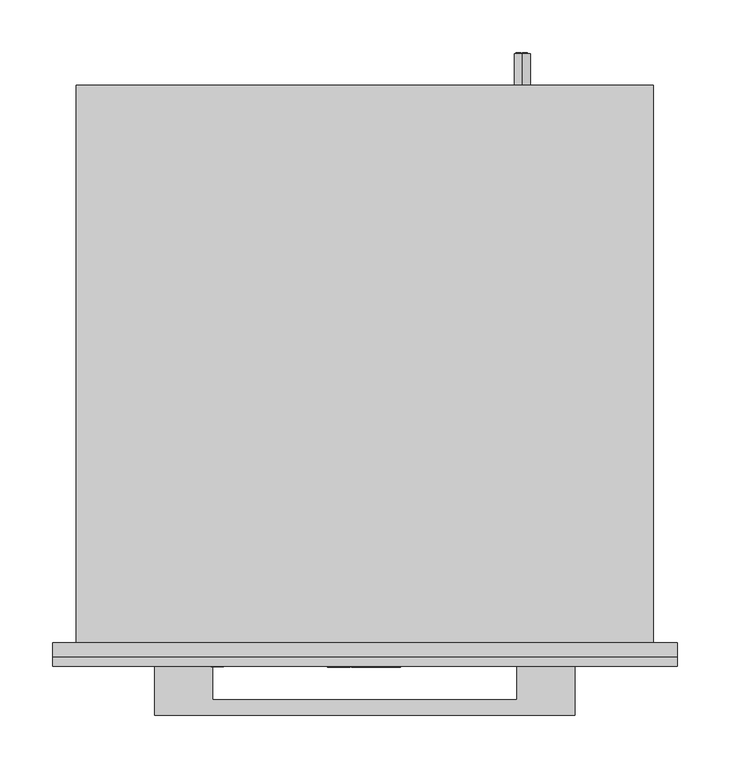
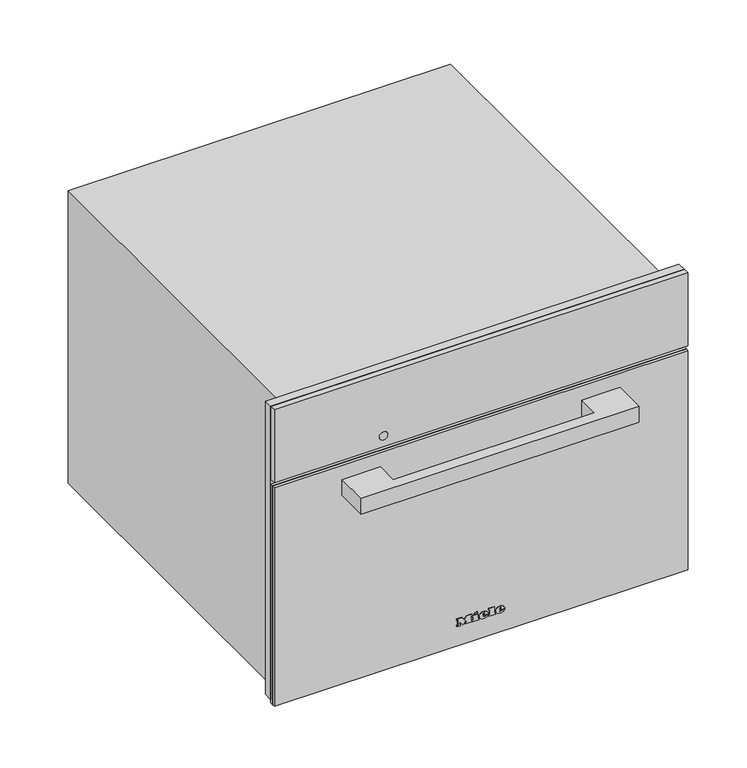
"""IFC4 building model written with IfcOpenShell, lengths in millimetres: proxy geometry, 11134600_I_DGM7840_OBSW : 23784024_I_11134600_DGM7840_OBSW."""

import ifcopenshell
import ifcopenshell.guid

model = None  # the IFC model being written
_history = None  # IfcOwnerHistory: only IFC2X3 demands one
_inside = {}  # id of a spatial element -> (the spatial element, [elements in it])
_under = {}  # id of a project, library or spatial element -> (it, [spatial elements below it])
_declared = {}  # id of a project -> (the project, [libraries it declares])
_typed = {}  # id of a type object -> (the type object, [elements of that type])
_made_of = {}  # id of a material, layer set ... -> (it, [elements and type objects made of it])


def new_model(schema):
    """Start an empty IFC model of exactly this schema.

    Asked for "IFC4X3", IfcOpenShell would pick the latest addendum, in which some entities
    have other attributes; the version numbers below select the first issue.
    IFC2X3 requires an IfcOwnerHistory on every rooted entity: one is made here for all.
    """
    global model, _history
    if schema == "IFC4X3":
        model = ifcopenshell.file(schema_version=(4, 3, 0, 0))
    else:
        model = ifcopenshell.file(schema=schema)
    _inside.clear()
    _under.clear()
    _declared.clear()
    _typed.clear()
    _made_of.clear()
    _history = None
    if model.schema == "IFC2X3":
        org = make("IfcOrganization", Name="unknown")
        user = make(
            "IfcPersonAndOrganization",
            ThePerson=make("IfcPerson", FamilyName="unknown"),
            TheOrganization=org,
        )
        app = make(
            "IfcApplication",
            ApplicationDeveloper=org,
            Version="unknown",
            ApplicationFullName="unknown",
            ApplicationIdentifier="unknown",
        )
        _history = make(
            "IfcOwnerHistory",
            OwningUser=user,
            OwningApplication=app,
            ChangeAction="ADDED",
            CreationDate=0,
        )
    return model


def make(cls, **values):
    """One entity of the class cls with the attributes given. An attribute that is None is left unset."""
    return model.create_entity(
        cls, **{name: value for name, value in values.items() if value is not None}
    )


def rooted(cls, **values):
    """An entity with a GlobalId (a new one), such as an element, a storey or a relation."""
    return make(cls, GlobalId=ifcopenshell.guid.new(), OwnerHistory=_history, **values)


def si_unit(unit_type, name, prefix=None):
    """IfcSIUnit, for example si_unit("LENGTHUNIT", "METRE", prefix="MILLI")."""
    return make("IfcSIUnit", UnitType=unit_type, Prefix=prefix, Name=name)


def assignment(units):
    """IfcUnitAssignment: the units of a project."""
    return None if units is None else make("IfcUnitAssignment", Units=units)


def point(xyz):
    """IfcCartesianPoint."""
    return None if xyz is None else make("IfcCartesianPoint", Coordinates=xyz)


def direction(xyz):
    """IfcDirection."""
    return None if xyz is None else make("IfcDirection", DirectionRatios=xyz)


def frame(location, z_axis=None, x_axis=None):
    """IfcAxis2Placement3D, a coordinate frame: its origin and axes. An axis left out is left unset."""
    return make(
        "IfcAxis2Placement3D",
        Location=point(location),
        Axis=direction(z_axis),
        RefDirection=direction(x_axis),
    )


def frame_2d(location, x_axis=None):
    """IfcAxis2Placement2D, a coordinate frame in the plane: its origin and x axis."""
    return make(
        "IfcAxis2Placement2D", Location=point(location), RefDirection=direction(x_axis)
    )


def origin():
    """The frame at (0, 0, 0) with its axes left unset."""
    return frame((0.0, 0.0, 0.0))


def place(relative_to, where):
    """IfcLocalPlacement: puts the frame where relative to a parent placement (None: the world)."""
    return make(
        "IfcLocalPlacement", PlacementRelTo=relative_to, RelativePlacement=where
    )


def context(
    kind, dimensions, precision=None, world=None, true_north=None, identifier=None
):
    """IfcGeometricRepresentationContext, for example the 3D "Model" context."""
    return make(
        "IfcGeometricRepresentationContext",
        ContextIdentifier=identifier,
        ContextType=kind,
        CoordinateSpaceDimension=dimensions,
        Precision=precision,
        WorldCoordinateSystem=world,
        TrueNorth=true_north,
    )


def project(units=None, contexts=None):
    """IfcProject with its units and contexts."""
    return rooted(
        "IfcProject",
        Name="project",
        RepresentationContexts=contexts,
        UnitsInContext=assignment(units),
    )


def spatial(cls, under=None, at=None, **own):
    """A site, building, storey or space (cls), placed at a placement, below another one or the project."""
    s = rooted(cls, ObjectPlacement=at, **own)
    if under is not None:
        _under.setdefault(under.id(), (under, []))[1].append(s)
    return s


def polyline(points):
    """IfcPolyline through the points."""
    return make("IfcPolyline", Points=[point(p) for p in points])


def circle_curve(where, radius):
    """IfcCircle in the frame where."""
    return make("IfcCircle", Position=where, Radius=radius)


def ellipse_curve(where, semi_axis1, semi_axis2):
    """IfcEllipse in the frame where."""
    return make(
        "IfcEllipse", Position=where, SemiAxis1=semi_axis1, SemiAxis2=semi_axis2
    )


def trimmed(basis, trim1, trim2, sense, master):
    """IfcTrimmedCurve: the piece of a basis curve between two trims."""
    return make(
        "IfcTrimmedCurve",
        BasisCurve=basis,
        Trim1=trim1,
        Trim2=trim2,
        SenseAgreement=sense,
        MasterRepresentation=master,
    )


def segment(curve, same_sense, transition):
    """IfcCompositeCurveSegment."""
    return make(
        "IfcCompositeCurveSegment",
        Transition=transition,
        SameSense=same_sense,
        ParentCurve=curve,
    )


def composite_curve(segments, self_intersect=None):
    """IfcCompositeCurve: segments joined end to end."""
    return make("IfcCompositeCurve", Segments=segments, SelfIntersect=self_intersect)


def outline(outer, holes=None, kind="AREA"):
    """IfcArbitraryClosedProfileDef: a profile drawn as a closed curve; with holes, ...WithVoids."""
    if holes is None:
        return make("IfcArbitraryClosedProfileDef", ProfileType=kind, OuterCurve=outer)
    return make(
        "IfcArbitraryProfileDefWithVoids",
        ProfileType=kind,
        OuterCurve=outer,
        InnerCurves=holes,
    )


def extrude(swept, where, along, depth):
    """IfcExtrudedAreaSolid: the profile swept, set in the frame where, extruded along a direction by depth."""
    return make(
        "IfcExtrudedAreaSolid",
        SweptArea=swept,
        Position=where,
        ExtrudedDirection=direction(along),
        Depth=depth,
    )


def faces_of(points, faces, orient=None, outer=None):
    """IfcFace entities. A face is a list of loops; a loop is a list of indices into points, from 0.

    orient and outer hold one flag for each loop. By default every Orientation is true, the
    first loop of a face is its IfcFaceOuterBound and the others are IfcFaceBound.
    """
    made = []
    for i, loops in enumerate(faces):
        bounds = []
        for j, loop in enumerate(loops):
            is_outer = j == 0 if outer is None else outer[i][j]
            bounds.append(
                make(
                    "IfcFaceOuterBound" if is_outer else "IfcFaceBound",
                    Bound=make("IfcPolyLoop", Polygon=[points[k] for k in loop]),
                    Orientation=True if orient is None else orient[i][j],
                )
            )
        made.append(make("IfcFace", Bounds=bounds))
    return made


def faceted_brep(points, faces, orient=None, outer=None, voids=None):
    """IfcFacetedBrep: a solid bounded by flat faces; with voids (closed shells), ...WithVoids."""
    shared = [point(p) for p in points]
    hull = make("IfcClosedShell", CfsFaces=faces_of(shared, faces, orient, outer))
    if voids is None:
        return make("IfcFacetedBrep", Outer=hull)
    return make(
        "IfcFacetedBrepWithVoids",
        Outer=hull,
        Voids=[
            make(cls, CfsFaces=faces_of(shared, fs, o, b)) for cls, fs, o, b in voids
        ],
    )


def shape(context_of_items, identifier, shape_type, items):
    """IfcShapeRepresentation: the items that make up one representation, for example the "Body"."""
    return make(
        "IfcShapeRepresentation",
        ContextOfItems=context_of_items,
        RepresentationIdentifier=identifier,
        RepresentationType=shape_type,
        Items=items,
    )


def source(mapping_origin, context_of_items, identifier, shape_type, items):
    """IfcRepresentationMap: a shape defined once, which mapped items show again and again."""
    return make(
        "IfcRepresentationMap",
        MappingOrigin=mapping_origin,
        MappedRepresentation=shape(context_of_items, identifier, shape_type, items),
    )


def transform(
    local_origin,
    x_axis=None,
    y_axis=None,
    z_axis=None,
    scale=None,
    scale2=None,
    scale3=None,
    uniform=True,
):
    """IfcCartesianTransformationOperator3D, or its non-uniform kind. x_axis, y_axis, z_axis: its Axis1, 2, 3."""
    if uniform:
        return make(
            "IfcCartesianTransformationOperator3D",
            Axis1=direction(x_axis),
            Axis2=direction(y_axis),
            LocalOrigin=point(local_origin),
            Scale=scale,
            Axis3=direction(z_axis),
        )
    return make(
        "IfcCartesianTransformationOperator3DnonUniform",
        Axis1=direction(x_axis),
        Axis2=direction(y_axis),
        LocalOrigin=point(local_origin),
        Scale=scale,
        Axis3=direction(z_axis),
        Scale2=scale2,
        Scale3=scale3,
    )


def mapped(mapping_source, mapping_target):
    """IfcMappedItem: shows the shape of a source again, moved by a transform."""
    return make(
        "IfcMappedItem", MappingSource=mapping_source, MappingTarget=mapping_target
    )


def made_of(thing, what):
    """Note that an element or type object is made of a material, layer set ...; save() writes the relation."""
    if what is not None:
        _made_of.setdefault(what.id(), (what, []))[1].append(thing)
    return thing


def element(
    cls,
    number,
    at=None,
    inside=None,
    cuts=None,
    type_object=None,
    material=None,
    context=None,
    identifier="Body",
    shape_type=None,
    held_by="IfcProductDefinitionShape",
    body=None,
    shapes=None,
    **own,
):
    """One element of the class cls, such as IfcWall. Its Tag is "e" and its number.

    at: its placement. inside: the storey or other place that contains it. cuts: it is an
    opening in that element (IfcRelVoidsElement). A single representation is given by context,
    identifier, shape_type and body (its items); several are given by shapes. held_by: the class
    of the entity that holds the representations. save() writes the other relations.
    """
    e = rooted(cls, Tag="e%d" % number, ObjectPlacement=at, **own)
    if body is not None:
        shapes = [shape(context, identifier, shape_type, body)]
    if shapes is not None:
        e.Representation = make(held_by, Representations=shapes)
    if inside is not None:
        _inside.setdefault(inside.id(), (inside, []))[1].append(e)
    if cuts is not None:
        rooted(
            "IfcRelVoidsElement", RelatingBuildingElement=cuts, RelatedOpeningElement=e
        )
    if type_object is not None:
        _typed.setdefault(type_object.id(), (type_object, []))[1].append(e)
    return made_of(e, material)


def aggregate(whole, parts):
    """IfcRelAggregates: a whole, such as a stair, and the parts it consists of."""
    return rooted("IfcRelAggregates", RelatingObject=whole, RelatedObjects=parts)


def save(model, path):
    """Write the relations noted so far, then the file.

    IfcRelAggregates (storeys below a building ...), IfcRelContainedInSpatialStructure (elements
    in a storey), IfcRelDefinesByType, IfcRelAssociatesMaterial and IfcRelDeclares: one each for
    every whole, place, type object, material and project.
    """
    for whole, parts in _under.values():
        aggregate(whole, parts)
    for where, things in _inside.values():
        rooted(
            "IfcRelContainedInSpatialStructure",
            RelatedElements=things,
            RelatingStructure=where,
        )
    for kind, things in _typed.values():
        rooted("IfcRelDefinesByType", RelatedObjects=things, RelatingType=kind)
    for what, things in _made_of.values():
        rooted("IfcRelAssociatesMaterial", RelatedObjects=things, RelatingMaterial=what)
    for by, libraries in _declared.values():
        rooted("IfcRelDeclares", RelatingContext=by, RelatedDefinitions=libraries)
    model.write(path)


def plane_surface(at):
    """IfcPlane: the flat surface through the origin of the frame at, square to its z axis."""
    return make("IfcPlane", Position=at)


def cylinder_surface(at, radius):
    """IfcCylindricalSurface: all points at the distance radius from the z axis of the frame at."""
    return make("IfcCylindricalSurface", Position=at, Radius=radius)


def revolved_surface(curve, axis_point, axis_direction):
    """IfcSurfaceOfRevolution: the curve turned about the line through axis_point along axis_direction."""
    return make(
        "IfcSurfaceOfRevolution",
        SweptCurve=make("IfcArbitraryOpenProfileDef", ProfileType="CURVE", Curve=curve),
        AxisPosition=make("IfcAxis1Placement", Location=point(axis_point), Axis=direction(axis_direction)),
    )


def extruded_surface(curve, direction_of_extrusion, depth):
    """IfcSurfaceOfLinearExtrusion: the curve pushed along a direction by depth."""
    return make(
        "IfcSurfaceOfLinearExtrusion",
        SweptCurve=make("IfcArbitraryOpenProfileDef", ProfileType="CURVE", Curve=curve),
        ExtrudedDirection=direction(direction_of_extrusion),
        Depth=depth,
    )


def advanced_brep(points, edges, surfaces, faces):
    """IfcAdvancedBrep: a solid bounded by faces that lie on surfaces and meet in shared edges.

    An edge is (start, end): straight between two places in points (the first is 0);
    or (start, end, curve); or (start, end, curve, False) where it runs against its curve.
    A face is (place in surfaces, loops), or (place, loops, False) where it looks against
    its surface's normal. A loop lists edges by number (the first is 1), with a minus sign
    where the edge is run from its end to its start. The first loop is the outer one.
    """
    corners = [point(p) for p in points]
    vertices = [make("IfcVertexPoint", VertexGeometry=c) for c in corners]
    made = []
    for start, end, *more in edges:
        made.append(
            make(
                "IfcEdgeCurve",
                EdgeStart=vertices[start],
                EdgeEnd=vertices[end],
                EdgeGeometry=more[0] if more else make("IfcPolyline", Points=[corners[start], corners[end]]),
                SameSense=more[1] if len(more) > 1 else True,
            )
        )
    hull = []
    for where, loops, *sense in faces:
        bounds = []
        for j, loop in enumerate(loops):
            ring = [make("IfcOrientedEdge", EdgeElement=made[abs(k) - 1], Orientation=k > 0) for k in loop]
            bounds.append(
                make(
                    "IfcFaceOuterBound" if j == 0 else "IfcFaceBound",
                    Bound=make("IfcEdgeLoop", EdgeList=ring),
                    Orientation=True,
                )
            )
        hull.append(make("IfcAdvancedFace", Bounds=bounds, FaceSurface=surfaces[where], SameSense=sense[0] if sense else True))
    return make("IfcAdvancedBrep", Outer=make("IfcClosedShell", CfsFaces=hull))


def specialty_equipment_aa7fc179(model_context):
    return source(origin(), model_context, "Body", "SolidModel", [
        extrude(outline(polyline([(455.0, 297.5), (455.0, -297.5), (9.0, -297.5), (9.0, -272.5), (344.0, -272.5), (344.0, 272.5), (9.0, 272.5), (9.0, 297.5), (455.0, 297.5)])), frame((0.0, -13.0, 0.0), z_axis=(0.0, 1.0, 0.0), x_axis=(0.0, 0.0, 1.0)), (0.0, 0.0, 1.0), 13.0),
        advanced_brep(
        [(150.0, 561.0, 410.5), (150.0, 561.0, 395.5), (144.4098301, 561.0, 398.0), (148.5, 561.0, 398.0), (148.5, 561.0, 408.0), (147.4955303, 561.0, 408.0), (147.4955303, 561.0, 399.0), (144.0315043, 561.0, 399.0), (144.0315043, 561.0, 398.4582978), (155.0, 561.0, 398.0), (155.0, 561.0, 408.0), (150.0, 561.0, 408.0), (150.0, 561.0, 407.0), (154.0, 561.0, 407.0), (154.0, 561.0, 403.5), (151.0, 561.0, 403.5), (151.0, 561.0, 402.5), (154.0, 561.0, 402.5), (154.0, 561.0, 399.0), (150.0, 561.0, 399.0), (150.0, 561.0, 398.0), (150.0, 531.0, 395.5), (150.0, 531.0, 410.5), (155.0, 562.0, 408.0), (155.0, 562.0, 398.0), (150.0, 562.0, 398.0), (150.0, 562.0, 399.0), (154.0, 562.0, 399.0), (154.0, 562.0, 402.5), (151.0, 562.0, 402.5), (151.0, 562.0, 403.5), (154.0, 562.0, 403.5), (154.0, 562.0, 407.0), (150.0, 562.0, 407.0), (150.0, 562.0, 408.0), (148.5, 562.0, 398.0), (144.0315043, 562.0, 398.0), (144.0315043, 562.0, 399.0), (147.4955303, 562.0, 399.0), (147.4955303, 562.0, 408.0), (148.5, 562.0, 408.0), (144.0315043, 561.0, 398.0)],
        [
            (0, 1, circle_curve(frame((150.0, 561.0, 403.0), z_axis=(0.0, 1.0, 0.0), x_axis=(0.0, 0.0, 1.0)), 7.5)),
            (1, 2, circle_curve(frame((150.0, 561.0, 403.0), z_axis=(0.0, 1.0, 0.0), x_axis=(0.0, 0.0, 1.0)), 7.5)),
            (2, 3),
            (3, 4),
            (4, 5),
            (5, 6),
            (6, 7),
            (7, 8),
            (8, 0, circle_curve(frame((150.0, 561.0, 403.0), z_axis=(0.0, 1.0, 0.0), x_axis=(0.0, 0.0, 1.0)), 7.5)),
            (9, 10),
            (10, 11),
            (11, 12),
            (12, 13),
            (13, 14),
            (14, 15),
            (15, 16),
            (16, 17),
            (17, 18),
            (18, 19),
            (19, 20),
            (20, 9),
            (21, 22, circle_curve(frame((150.0, 531.0, 403.0), z_axis=(0.0, -1.0, 0.0), x_axis=(0.0, 0.0, 1.0)), 7.5)),
            (22, 21, circle_curve(frame((150.0, 531.0, 403.0), z_axis=(0.0, -1.0, 0.0), x_axis=(0.0, 0.0, 1.0)), 7.5)),
            (0, 22),
            (21, 1),
            (8, 2, circle_curve(frame((150.0, 561.0, 403.0), z_axis=(0.0, -1.0, 0.0), x_axis=(0.0, 0.0, 1.0)), 7.5)),
            (23, 24),
            (24, 25),
            (25, 26),
            (26, 27),
            (27, 28),
            (28, 29),
            (29, 30),
            (30, 31),
            (31, 32),
            (32, 33),
            (33, 34),
            (34, 23),
            (35, 36),
            (36, 37),
            (37, 38),
            (38, 39),
            (39, 40),
            (40, 35),
            (8, 41),
            (41, 2),
            (23, 10),
            (9, 24),
            (20, 25),
            (19, 26),
            (18, 27),
            (17, 28),
            (16, 29),
            (15, 30),
            (14, 31),
            (13, 32),
            (12, 33),
            (11, 34),
            (35, 3),
            (41, 36),
            (7, 37),
            (6, 38),
            (5, 39),
            (4, 40),
        ],
        [
            plane_surface(frame((150.0, 561.0, 410.5), z_axis=(0.0, 1.0, 0.0), x_axis=(1.0, 0.0, 0.0))),
            plane_surface(frame((150.0, 531.0, 410.5), z_axis=(0.0, -1.0, 0.0), x_axis=(-1.0, 0.0, 0.0))),
            cylinder_surface(frame((150.0, 561.0, 403.0), z_axis=(0.0, -1.0, 0.0), x_axis=(0.0, 0.0, 1.0)), 7.5),
            plane_surface(frame((155.0, 562.0, 408.0), z_axis=(0.0, 1.0, 0.0), x_axis=(0.0, 0.0, -1.0))),
            plane_surface(frame((155.0, 561.0, 408.0), z_axis=(0.0, -1.0, 0.0), x_axis=(0.0, 0.0, 1.0))),
            plane_surface(frame((155.0, 562.0, 408.0), z_axis=(1.0, 0.0, 0.0), x_axis=(0.0, -1.0, 0.0))),
            plane_surface(frame((155.0, 562.0, 398.0), z_axis=(0.0, 0.0, -1.0), x_axis=(0.0, -1.0, 0.0))),
            plane_surface(frame((150.0, 562.0, 398.0), z_axis=(-1.0, 0.0, 0.0), x_axis=(0.0, -1.0, 0.0))),
            plane_surface(frame((150.0, 562.0, 399.0), z_axis=(0.0, 0.0, 1.0), x_axis=(0.0, -1.0, 0.0))),
            plane_surface(frame((154.0, 562.0, 399.0), z_axis=(-1.0, 0.0, 0.0), x_axis=(0.0, -1.0, 0.0))),
            plane_surface(frame((154.0, 562.0, 402.5), z_axis=(0.0, 0.0, -1.0), x_axis=(0.0, -1.0, 0.0))),
            plane_surface(frame((151.0, 562.0, 402.5), z_axis=(-1.0, 0.0, 0.0), x_axis=(0.0, -1.0, 0.0))),
            plane_surface(frame((151.0, 562.0, 403.5), z_axis=(0.0, 0.0, 1.0), x_axis=(0.0, -1.0, 0.0))),
            plane_surface(frame((154.0, 562.0, 403.5), z_axis=(-1.0, 0.0, 0.0), x_axis=(0.0, -1.0, 0.0))),
            plane_surface(frame((154.0, 562.0, 407.0), z_axis=(0.0, 0.0, -1.0), x_axis=(0.0, -1.0, 0.0))),
            plane_surface(frame((150.0, 562.0, 407.0), z_axis=(-1.0, 0.0, 0.0), x_axis=(0.0, -1.0, 0.0))),
            plane_surface(frame((150.0, 562.0, 408.0), z_axis=(0.0, 0.0, 1.0), x_axis=(0.0, -1.0, 0.0))),
            plane_surface(frame((148.5, 562.0, 398.0), z_axis=(0.0, 0.0, -1.0), x_axis=(0.0, -1.0, 0.0))),
            plane_surface(frame((144.0315043, 562.0, 398.0), z_axis=(-1.0, 0.0, 0.0), x_axis=(0.0, -1.0, 0.0))),
            plane_surface(frame((144.0315043, 562.0, 399.0), z_axis=(0.0, 0.0, 1.0), x_axis=(0.0, -1.0, 0.0))),
            plane_surface(frame((147.4955303, 562.0, 399.0), z_axis=(-1.0, 0.0, 0.0), x_axis=(0.0, -1.0, 0.0))),
            plane_surface(frame((147.4955303, 562.0, 408.0), z_axis=(0.0, 0.0, 1.0), x_axis=(0.0, -1.0, 0.0))),
            plane_surface(frame((148.5, 562.0, 408.0), z_axis=(1.0, 0.0, 0.0), x_axis=(0.0, -1.0, 0.0))),
        ],
        [
            (0, [[1, 2, 3, 4, 5, 6, 7, 8, 9], [10, 11, 12, 13, 14, 15, 16, 17, 18, 19, 20, 21]]),
            (1, [[22, 23]]),
            (2, [[-1, 24, -22, 25]]),
            (2, [[-23, -24, -9, 26, -2, -25]]),
            (3, [[27, 28, 29, 30, 31, 32, 33, 34, 35, 36, 37, 38]]),
            (3, [[39, 40, 41, 42, 43, 44]]),
            (4, [[45, 46, -26]]),
            (5, [[-27, 47, -10, 48]]),
            (6, [[-28, -48, -21, 49]]),
            (7, [[-29, -49, -20, 50]]),
            (8, [[-30, -50, -19, 51]]),
            (9, [[-31, -51, -18, 52]]),
            (10, [[-32, -52, -17, 53]]),
            (11, [[-33, -53, -16, 54]]),
            (12, [[-34, -54, -15, 55]]),
            (13, [[-35, -55, -14, 56]]),
            (14, [[-36, -56, -13, 57]]),
            (15, [[-37, -57, -12, 58]]),
            (16, [[-38, -58, -11, -47]]),
            (17, [[-39, 59, -3, -46, 60]]),
            (18, [[-40, -60, -45, -8, 61]]),
            (19, [[-41, -61, -7, 62]]),
            (20, [[-42, -62, -6, 63]]),
            (21, [[-43, -63, -5, 64]]),
            (22, [[-44, -64, -4, -59]]),
        ],
    ),
        faceted_brep([(275.0, 531.0, 445.0), (275.0, 531.0, 0.0), (-275.0, 531.0, 0.0), (-275.0, 531.0, 445.0), (275.0, 0.0, 445.0), (-275.0, 0.0, 445.0), (-275.0, 0.0, 0.0), (275.0, 0.0, 0.0), (-272.5, 0.0, 344.0), (272.5, 0.0, 344.0), (272.5, 0.0, 8.0), (-272.5, 0.0, 8.0), (272.5, 12.0, 344.0), (-272.5, 12.0, 344.0), (-272.5, 12.0, 8.0), (272.5, 12.0, 8.0), (161.0, 12.0, 286.0), (161.0, 12.0, 58.0), (-220.0, 12.0, 58.0), (-220.0, 12.0, 286.0), (161.0, 419.0, 286.0), (-220.0, 419.0, 286.0), (-220.0, 419.0, 58.0), (161.0, 419.0, 58.0)], [[[0, 1, 2, 3]], [[4, 5, 6, 7], [8, 9, 10, 11]], [[0, 3, 5, 4]], [[3, 2, 6, 5]], [[2, 1, 7, 6]], [[1, 0, 4, 7]], [[12, 13, 14, 15], [16, 17, 18, 19]], [[13, 12, 9, 8]], [[14, 13, 8, 11]], [[15, 14, 11, 10]], [[12, 15, 10, 9]], [[20, 21, 22, 23]], [[20, 23, 17, 16]], [[23, 22, 18, 17]], [[22, 21, 19, 18]], [[21, 20, 16, 19]]]),
        advanced_brep(
        [(26.2998, -23.0, 36.7018), (26.2998, -23.0, 37.8532), (33.9264, -23.0, 37.8532), (20.6568, -23.0, 37.8532), (23.7918, -23.0, 34.0), (33.7326, -23.0, 36.7018), (30.2898, -23.0, 36.7018), (27.5766, -23.0, 35.425), (26.2998, -23.0, 39.3124), (26.2998, -23.0, 40.555), (28.2492, -23.0, 40.555), (28.2492, -23.0, 39.3124), (26.2998, -22.0, 36.7018), (27.5766, -22.0, 35.425), (30.2898, -22.0, 36.7018), (33.7326, -22.0, 36.7018), (23.7918, -22.0, 34.0), (20.6568, -22.0, 37.8532), (33.9264, -22.0, 37.8532), (26.2998, -22.0, 37.8532), (26.2998, -22.0, 39.3124), (28.2492, -22.0, 39.3124), (28.2492, -22.0, 40.555), (26.2998, -22.0, 40.555)],
        [
            (0, 1),
            (1, 2),
            (2, 3, ellipse_curve(frame((27.2916, -23.0, 37.8532), z_axis=(0.0, -1.0, 0.0), x_axis=(-1.0, 0.0, 0.0)), 6.6348, 5.4834)),
            (3, 4, circle_curve(frame((25.0686622, -23.0, 38.2408), z_axis=(0.0, -1.0, 0.0), x_axis=(0.0, 0.0, -1.0)), 4.4288556)),
            (4, 5, circle_curve(frame((27.1587808, -23.0, 41.2504), z_axis=(0.0, -1.0, 0.0), x_axis=(0.0, 0.0, -1.0)), 7.9940516)),
            (5, 6),
            (6, 7, circle_curve(frame((28.1338588, -23.0, 37.762), z_axis=(0.0, 1.0, 0.0), x_axis=(0.0, 0.0, -1.0)), 2.4025208)),
            (7, 0, circle_curve(frame((27.5766, -23.0, 36.7018), z_axis=(0.0, 1.0, 0.0), x_axis=(0.0, 0.0, -1.0)), 1.2768)),
            (8, 9),
            (9, 10, circle_curve(frame((27.2745, -23.0, 40.555), z_axis=(0.0, 1.0, 0.0), x_axis=(0.0, 0.0, -1.0)), 0.9747)),
            (10, 11),
            (11, 8),
            (12, 13, circle_curve(frame((27.5766, -22.0, 36.7018), z_axis=(0.0, -1.0, 0.0), x_axis=(0.0, 0.0, -1.0)), 1.2768)),
            (13, 14, circle_curve(frame((28.1338588, -22.0, 37.762), z_axis=(0.0, -1.0, 0.0), x_axis=(0.0, 0.0, -1.0)), 2.4025208)),
            (14, 15),
            (15, 16, circle_curve(frame((27.1587808, -22.0, 41.2504), z_axis=(0.0, 1.0, 0.0), x_axis=(0.0, 0.0, -1.0)), 7.9940516)),
            (16, 17, circle_curve(frame((25.0686622, -22.0, 38.2408), z_axis=(0.0, 1.0, 0.0), x_axis=(0.0, 0.0, -1.0)), 4.4288556)),
            (17, 18, ellipse_curve(frame((27.2916, -22.0, 37.8532), z_axis=(0.0, 1.0, 0.0), x_axis=(-1.0, 0.0, 0.0)), 6.6348, 5.4834)),
            (18, 19),
            (19, 12),
            (20, 21),
            (21, 22),
            (22, 23, circle_curve(frame((27.2745, -22.0, 40.555), z_axis=(0.0, -1.0, 0.0), x_axis=(0.0, 0.0, -1.0)), 0.9747)),
            (23, 20),
            (0, 12),
            (19, 1),
            (18, 2),
            (5, 15),
            (14, 6),
            (17, 3),
            (13, 7),
            (16, 4),
            (8, 20),
            (23, 9),
            (22, 10),
            (21, 11),
        ],
        [
            plane_surface(frame((26.2998, -23.0, 37.8532), z_axis=(0.0, -1.0, 0.0), x_axis=(0.0, 0.0, 1.0))),
            plane_surface(frame((26.2998, -22.0, 37.8532), z_axis=(0.0, 1.0, 0.0), x_axis=(0.0, 0.0, -1.0))),
            plane_surface(frame((26.2998, -23.0, 36.7018), z_axis=(1.0, 0.0, 0.0), x_axis=(0.0, 1.0, 0.0))),
            plane_surface(frame((26.2998, -23.0, 37.8532), z_axis=(0.0, 0.0, -1.0), x_axis=(0.0, 1.0, 0.0))),
            plane_surface(frame((33.7326, -23.0, 36.7018), z_axis=(0.0, 0.0, 1.0), x_axis=(0.0, 1.0, 0.0))),
            extruded_surface(trimmed(ellipse_curve(frame((27.2916, -21.0, 37.8532), z_axis=(0.0, -1.0, 0.0), x_axis=(-1.0, 0.0, 0.0)), 6.6348, 5.4834), [point((33.9264, -21.0, 37.8532))], [point((20.6568, -21.0, 37.8532))], True, "CARTESIAN"), (0.0, -1.0, 0.0), 1.0),
            revolved_surface(polyline([(28.1338588, -22.0, 35.3594792), (28.1338588, -23.0, 35.3594792)]), (28.1338588, -22.0, 37.762), (0.0, 1.0, 0.0)),
            revolved_surface(polyline([(27.5766, -22.0, 35.425), (27.5766, -23.0, 35.425)]), (27.5766, -22.0, 36.7018), (0.0, 1.0, 0.0)),
            cylinder_surface(frame((25.0686622, -22.0, 38.2408), z_axis=(0.0, -1.0, 0.0), x_axis=(0.0, 0.0, -1.0)), 4.4288556),
            cylinder_surface(frame((27.1587808, -22.0, 41.2504), z_axis=(0.0, -1.0, 0.0), x_axis=(0.0, 0.0, -1.0)), 7.9940516),
            plane_surface(frame((26.2998, -23.0, 39.3124), z_axis=(1.0, 0.0, 0.0), x_axis=(0.0, 1.0, 0.0))),
            revolved_surface(polyline([(27.2745, -22.0, 39.5803), (27.2745, -23.0, 39.5803)]), (27.2745, -22.0, 40.555), (0.0, 1.0, 0.0)),
            plane_surface(frame((28.2492, -23.0, 40.555), z_axis=(-1.0, 0.0, 0.0), x_axis=(0.0, 1.0, 0.0))),
            plane_surface(frame((28.2492, -23.0, 39.3124), z_axis=(0.0, 0.0, 1.0), x_axis=(0.0, 1.0, 0.0))),
        ],
        [
            (0, [[1, 2, 3, 4, 5, 6, 7, 8], [9, 10, 11, 12]]),
            (1, [[13, 14, 15, 16, 17, 18, 19, 20], [21, 22, 23, 24]]),
            (2, [[-1, 25, -20, 26]]),
            (3, [[-2, -26, -19, 27]]),
            (4, [[-6, 28, -15, 29]]),
            (5, [[-3, -27, -18, 30]]),
            (6, [[-7, -29, -14, 31]]),
            (7, [[-8, -31, -13, -25]]),
            (8, [[-4, -30, -17, 32]]),
            (9, [[-5, -32, -16, -28]]),
            (10, [[-9, 33, -24, 34]]),
            (11, [[-10, -34, -23, 35]]),
            (12, [[-11, -35, -22, 36]]),
            (13, [[-12, -36, -21, -33]]),
        ],
    ),
        advanced_brep(
        [(2.508, -23.0, 36.7018), (2.508, -23.0, 37.8532), (10.1346, -23.0, 37.8532), (-3.135, -23.0, 37.8532), (0.0, -23.0, 34.0), (9.9408, -23.0, 36.7018), (6.498, -23.0, 36.7018), (3.7848, -23.0, 35.425), (2.508, -23.0, 39.3124), (2.508, -23.0, 40.555), (4.4574, -23.0, 40.555), (4.4574, -23.0, 39.3124), (2.508, -22.0, 36.7018), (3.7848, -22.0, 35.425), (6.498, -22.0, 36.7018), (9.9408, -22.0, 36.7018), (0.0, -22.0, 34.0), (-3.135, -22.0, 37.8532), (10.1346, -22.0, 37.8532), (2.508, -22.0, 37.8532), (2.508, -22.0, 39.3124), (4.4574, -22.0, 39.3124), (4.4574, -22.0, 40.555), (2.508, -22.0, 40.555)],
        [
            (0, 1),
            (1, 2),
            (2, 3, ellipse_curve(frame((3.4998, -23.0, 37.8532), z_axis=(0.0, -1.0, 0.0), x_axis=(-1.0, 0.0, 0.0)), 6.6348, 5.4834)),
            (3, 4, circle_curve(frame((1.2768622, -23.0, 38.2408), z_axis=(0.0, -1.0, 0.0), x_axis=(0.0, 0.0, -1.0)), 4.4288556)),
            (4, 5, circle_curve(frame((3.3669808, -23.0, 41.2504), z_axis=(0.0, -1.0, 0.0), x_axis=(0.0, 0.0, -1.0)), 7.9940516)),
            (5, 6),
            (6, 7, circle_curve(frame((4.3420588, -23.0, 37.762), z_axis=(0.0, 1.0, 0.0), x_axis=(0.0, 0.0, -1.0)), 2.4025208)),
            (7, 0, circle_curve(frame((3.7848, -23.0, 36.7018), z_axis=(0.0, 1.0, 0.0), x_axis=(0.0, 0.0, -1.0)), 1.2768)),
            (8, 9),
            (9, 10, circle_curve(frame((3.4827, -23.0, 40.555), z_axis=(0.0, 1.0, 0.0), x_axis=(0.0, 0.0, -1.0)), 0.9747)),
            (10, 11),
            (11, 8),
            (12, 13, circle_curve(frame((3.7848, -22.0, 36.7018), z_axis=(0.0, -1.0, 0.0), x_axis=(0.0, 0.0, -1.0)), 1.2768)),
            (13, 14, circle_curve(frame((4.3420588, -22.0, 37.762), z_axis=(0.0, -1.0, 0.0), x_axis=(0.0, 0.0, -1.0)), 2.4025208)),
            (14, 15),
            (15, 16, circle_curve(frame((3.3669808, -22.0, 41.2504), z_axis=(0.0, 1.0, 0.0), x_axis=(0.0, 0.0, -1.0)), 7.9940516)),
            (16, 17, circle_curve(frame((1.2768622, -22.0, 38.2408), z_axis=(0.0, 1.0, 0.0), x_axis=(0.0, 0.0, -1.0)), 4.4288556)),
            (17, 18, ellipse_curve(frame((3.4998, -22.0, 37.8532), z_axis=(0.0, 1.0, 0.0), x_axis=(-1.0, 0.0, 0.0)), 6.6348, 5.4834)),
            (18, 19),
            (19, 12),
            (20, 21),
            (21, 22),
            (22, 23, circle_curve(frame((3.4827, -22.0, 40.555), z_axis=(0.0, -1.0, 0.0), x_axis=(0.0, 0.0, -1.0)), 0.9747)),
            (23, 20),
            (0, 12),
            (19, 1),
            (18, 2),
            (5, 15),
            (14, 6),
            (17, 3),
            (13, 7),
            (16, 4),
            (8, 20),
            (23, 9),
            (22, 10),
            (21, 11),
        ],
        [
            plane_surface(frame((2.508, -23.0, 37.8532), z_axis=(0.0, -1.0, 0.0), x_axis=(0.0, 0.0, 1.0))),
            plane_surface(frame((2.508, -22.0, 37.8532), z_axis=(0.0, 1.0, 0.0), x_axis=(0.0, 0.0, -1.0))),
            plane_surface(frame((2.508, -23.0, 36.7018), z_axis=(1.0, 0.0, 0.0), x_axis=(0.0, 1.0, 0.0))),
            plane_surface(frame((2.508, -23.0, 37.8532), z_axis=(0.0, 0.0, -1.0), x_axis=(0.0, 1.0, 0.0))),
            plane_surface(frame((9.9408, -23.0, 36.7018), z_axis=(0.0, 0.0, 1.0), x_axis=(0.0, 1.0, 0.0))),
            extruded_surface(trimmed(ellipse_curve(frame((3.4998, -21.0, 37.8532), z_axis=(0.0, -1.0, 0.0), x_axis=(-1.0, 0.0, 0.0)), 6.6348, 5.4834), [point((10.1346, -21.0, 37.8532))], [point((-3.135, -21.0, 37.8532))], True, "CARTESIAN"), (0.0, -1.0, 0.0), 1.0),
            revolved_surface(polyline([(4.3420588, -22.0, 35.3594792), (4.3420588, -23.0, 35.3594792)]), (4.3420588, -22.0, 37.762), (0.0, 1.0, 0.0)),
            revolved_surface(polyline([(3.7848, -22.0, 35.425), (3.7848, -23.0, 35.425)]), (3.7848, -22.0, 36.7018), (0.0, 1.0, 0.0)),
            cylinder_surface(frame((1.2768622, -22.0, 38.2408), z_axis=(0.0, -1.0, 0.0), x_axis=(0.0, 0.0, -1.0)), 4.4288556),
            cylinder_surface(frame((3.3669808, -22.0, 41.2504), z_axis=(0.0, -1.0, 0.0), x_axis=(0.0, 0.0, -1.0)), 7.9940516),
            plane_surface(frame((2.508, -23.0, 39.3124), z_axis=(1.0, 0.0, 0.0), x_axis=(0.0, 1.0, 0.0))),
            revolved_surface(polyline([(3.4827, -22.0, 39.5803), (3.4827, -23.0, 39.5803)]), (3.4827, -22.0, 40.555), (0.0, 1.0, 0.0)),
            plane_surface(frame((4.4574, -23.0, 40.555), z_axis=(-1.0, 0.0, 0.0), x_axis=(0.0, 1.0, 0.0))),
            plane_surface(frame((4.4574, -23.0, 39.3124), z_axis=(0.0, 0.0, 1.0), x_axis=(0.0, 1.0, 0.0))),
        ],
        [
            (0, [[1, 2, 3, 4, 5, 6, 7, 8], [9, 10, 11, 12]]),
            (1, [[13, 14, 15, 16, 17, 18, 19, 20], [21, 22, 23, 24]]),
            (2, [[-1, 25, -20, 26]]),
            (3, [[-2, -26, -19, 27]]),
            (4, [[-6, 28, -15, 29]]),
            (5, [[-3, -27, -18, 30]]),
            (6, [[-7, -29, -14, 31]]),
            (7, [[-8, -31, -13, -25]]),
            (8, [[-4, -30, -17, 32]]),
            (9, [[-5, -32, -16, -28]]),
            (10, [[-9, 33, -24, 34]]),
            (11, [[-10, -34, -23, 35]]),
            (12, [[-11, -35, -22, 36]]),
            (13, [[-12, -36, -21, -33]]),
        ],
    ),
        extrude(outline(polyline([(44.7274, -9.9522), (42.8806, -9.0858), (44.6818, -5.2212), (46.5286, -6.0762), (44.7274, -9.9522)])), frame((0.0, -23.0, 0.0), z_axis=(0.0, 1.0, 0.0), x_axis=(0.0, 0.0, 1.0)), (0.0, 0.0, 1.0), 1.0),
        extrude(outline(polyline([(42.6298, -12.768), (40.5892, -12.768), (40.5892, -11.4114), (35.9152, -11.4114), (35.9152, -12.768), (34.0, -12.768), (34.0, -3.7734), (35.9152, -3.7734), (35.9152, -5.0958), (42.6298, -5.0958), (42.6298, -12.768)])), frame((0.0, -23.0, 0.0), z_axis=(0.0, 1.0, 0.0), x_axis=(0.0, 0.0, 1.0)), (0.0, 0.0, 1.0), 1.0),
        extrude(outline(polyline([(43.5418, 10.773), (43.5418, 12.141), (35.9152, 12.141), (35.9152, 10.773), (34.0, 10.773), (34.0, 20.0184), (35.9152, 20.0184), (35.9152, 18.6162), (45.4, 18.6162), (45.4, 10.773), (43.5418, 10.773)])), frame((0.0, -23.0, 0.0), z_axis=(0.0, 1.0, 0.0), x_axis=(0.0, 0.0, 1.0)), (0.0, 0.0, 1.0), 1.0),
        extrude(outline(polyline([(43.5418, -35.4882), (43.5418, -34.1088), (35.9152, -34.1088), (35.9152, -35.4882), (34.0, -35.4882), (34.0, -30.4722), (35.9152, -30.4722), (35.9152, -31.8402), (40.7429247, -31.8402), (34.0, -26.7444), (40.9402223, -21.6258), (35.9152, -21.6258), (35.9152, -23.028), (34.0, -23.028), (34.0, -13.9308), (35.9152, -13.9308), (35.9152, -15.3786), (43.5418, -15.3786), (43.5418, -13.9308), (45.4, -13.9308), (45.4, -20.8734), (41.125, -24.2022), (45.4, -27.5424), (45.4, -35.4882), (43.5418, -35.4882)])), frame((0.0, -23.0, 0.0), z_axis=(0.0, 1.0, 0.0), x_axis=(0.0, 0.0, 1.0)), (0.0, 0.0, 1.0), 1.0),
        extrude(outline(polyline([(297.5, -22.0), (-297.5, -22.0), (-297.5, -13.0), (297.5, -13.0), (297.5, -22.0)])), frame((0.0, 0.0, 344.0), z_axis=(0.0, 0.0, 1.0), x_axis=(1.0, 0.0, 0.0)), (0.0, 0.0, 1.0), 111.0),
        extrude(outline(composite_curve([segment(trimmed(circle_curve(frame_2d((361.0, -140.5745637)), 6.0), [point((361.0, -146.5745637))], [point((361.0, -134.5745637))], False, "CARTESIAN"), True, "CONTINUOUS"), segment(trimmed(circle_curve(frame_2d((361.0, -140.5745637)), 6.0), [point((361.0, -134.5745637))], [point((361.0, -146.5745637))], False, "CARTESIAN"), True, "CONTINUOUS")], self_intersect=False)), frame((0.0, -22.5, 0.0), z_axis=(0.0, 1.0, 0.0), x_axis=(0.0, 0.0, 1.0)), (0.0, 0.0, 1.0), 1.0),
        extrude(outline(polyline([(-200.0, -69.0), (-200.0, -22.0), (-145.0, -22.0), (-145.0, -54.0), (145.0, -54.0), (145.0, -22.0), (200.0, -22.0), (200.0, -69.0), (-200.0, -69.0)])), frame((0.0, 0.0, 291.0), z_axis=(0.0, 0.0, 1.0), x_axis=(1.0, 0.0, 0.0)), (0.0, 0.0, 1.0), 24.0),
        extrude(outline(polyline([(297.5, -18.0), (-297.5, -18.0), (-297.5, -13.0), (297.5, -13.0), (297.5, -18.0)])), frame((0.0, 0.0, 4.0), z_axis=(0.0, 0.0, 1.0), x_axis=(1.0, 0.0, 0.0)), (0.0, 0.0, 1.0), 333.0),
        extrude(outline(polyline([(-297.5, -18.0), (297.5, -18.0), (297.5, -22.0), (-297.5, -22.0), (-297.5, -18.0)])), frame((0.0, 0.0, 4.0), z_axis=(0.0, 0.0, 1.0), x_axis=(1.0, 0.0, 0.0)), (0.0, 0.0, 1.0), 333.0),
    ])


if __name__ == "__main__":
    model = new_model("IFC4")
    model_context = context("Model", 3, world=origin())
    ifc_project = project(units=[si_unit("LENGTHUNIT", "METRE", prefix="MILLI")], contexts=[model_context])
    site = spatial("IfcSite", under=ifc_project)
    building = spatial("IfcBuilding", under=site)
    placement = place(None, origin())
    specialty_equipment_shape = specialty_equipment_aa7fc179(model_context)
    element("IfcBuildingElementProxy", 1, Name="11134600_I_DGM7840_OBSW : 23784024_I_11134600_DGM7840_OBSW", ObjectType="11134600_I_DGM7840_OBSW : 23784024_I_11134600_DGM7840_OBSW", at=placement, inside=building, context=model_context, shape_type="MappedRepresentation", body=[
        mapped(specialty_equipment_shape, transform((0.0, 0.0, 0.0), x_axis=(1.0, 0.0, 0.0), y_axis=(0.0, 1.0, 0.0), z_axis=(0.0, 0.0, 1.0))),
    ])
    save(model, "model.ifc")
